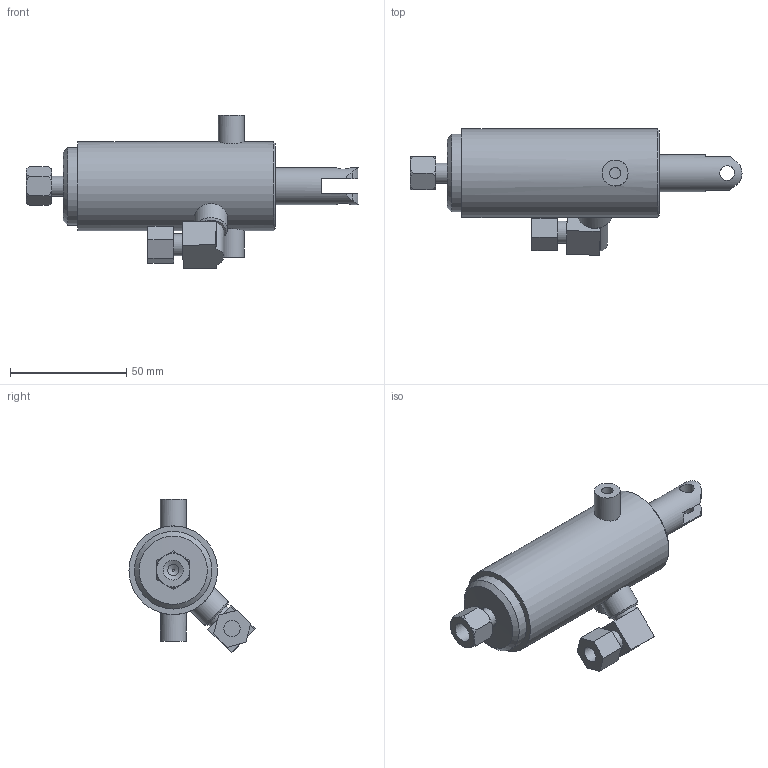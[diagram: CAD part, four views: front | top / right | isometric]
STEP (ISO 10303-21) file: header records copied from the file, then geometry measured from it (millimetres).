
FILE_DESCRIPTION(/* description */ (''),/* implementation_level */ '2;1');
FILE_NAME(/* name */ 'C:\Users\Nick\Desktop\CY-201 Sereis\CY-201\3D\cy-201.stp',/* time_stamp */ '2015-11-23T15:49:11-05:00',/* author */ ('Nick'),/* organization */ (''),/* preprocessor_version */ 'ST-DEVELOPER v16.1',/* originating_system */ 'AutoCAD Mechanical',/* authorisation */ '');
FILE_SCHEMA (('AUTOMOTIVE_DESIGN { 1 0 10303 214 3 1 1 }'));
Length unit declared in the file: inch
Products named in the file (2): R-Ring 32; Product
Assembly tree (2 placements, depth 2):
  Product
    R-Ring 32  x2
Bounding box: 142.71 x 54.23 x 66.16 mm (x, y, z)
Volume: 75432.9 mm3; surface area: 45074.5 mm2
Topology: 10 solids, 16 shells, 162 faces, 355 edges, 247 vertices
Faces by surface type: plane 65, cylinder 58, cone 24, torus 15
Full cylindrical faces by diameter (mm): 0.94 x1, 1.9 x4, 4.775 x2, 4.851 x2, 6.35 x2, 7.051 x1, 7.056 x1, 8.56 x2, 8.636 x1, 9.525 x1, 11.074 x1, 11.112 x2, 12.7 x1, 14.287 x1, 15.875 x3, 20.498 x1, 20.599 x1, 25.298 x3, 25.806 x1, 31.521 x2, 31.674 x1, 31.75 x4, 33.312 x1, 34.138 x1, 38.1 x1
Entity records: 4278 total; most frequent: CARTESIAN_POINT 1174, DIRECTION 639, ORIENTED_EDGE 505, AXIS2_PLACEMENT_3D 285, EDGE_CURVE 258, EDGE_LOOP 240, VERTEX_POINT 199, FACE_OUTER_BOUND 150
